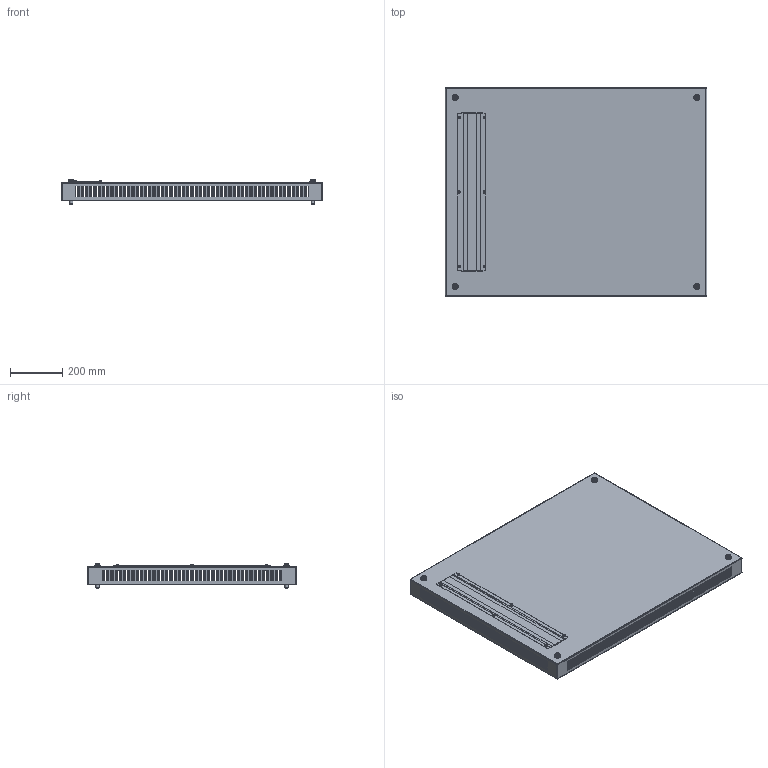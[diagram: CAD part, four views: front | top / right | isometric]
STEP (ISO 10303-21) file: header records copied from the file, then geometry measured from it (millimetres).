
FILE_DESCRIPTION(('STEP AP203'), '1');
FILE_NAME('3320 ÑÁ Ïîòîëî÷íàÿ ïàíåëü', '', ('UNSPECIFIED'), ('UNSPECIFIED'), 'C3D Converter', 'C3D Toolkit', '');
FILE_SCHEMA(('CONFIG_CONTROL_DESIGN'));
Length unit declared in the file: millimetre
Products named in the file (10): 3320.80.100.Щ СБ; 3321; 2329
Assembly tree (39 placements, depth 2):
  3320.80.100.Щ СБ
    3321
    2329  x4
    (unnamed)  x4
    (unnamed)  x4
    (unnamed)  x6
    (unnamed)  x6
    (unnamed)  x6
    (unnamed)  x6
    (unnamed)  x2
Bounding box: 997 x 797 x 93.5 mm (x, y, z)
Volume: 1833060.2 mm3; surface area: 2219679.9 mm2
Topology: 41 solids, 41 shells, 2168 faces, 6056 edges, 4012 vertices
Faces by surface type: plane 1704, cylinder 216, bspline 180, cone 26, sphere 22, torus 20
Full cylindrical faces by diameter (mm): 4.134 x6, 5 x6, 5.5 x6, 5.8 x6, 6 x4, 7 x6, 8.8 x6, 9.5 x6, 10 x6, 10.106 x4, 12 x8, 13.5 x4, 16 x4, 18 x4, 24 x4
Entity records: 57719 total; most frequent: CARTESIAN_POINT 14867, ORIENTED_EDGE 8756, DIRECTION 7598, EDGE_CURVE 4378, LINE 4160, VECTOR 4160, VERTEX_POINT 2912, EDGE_LOOP 2230
